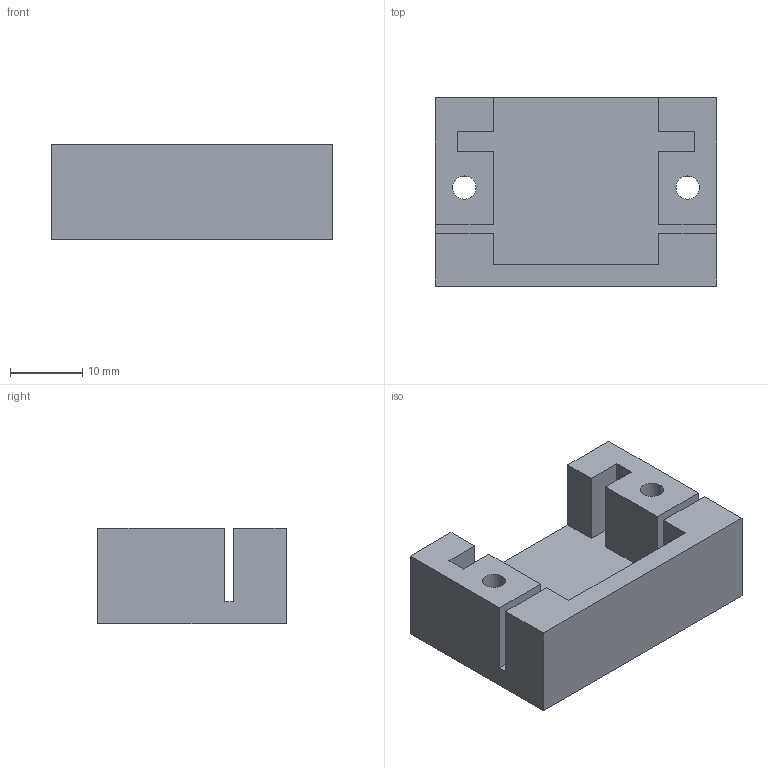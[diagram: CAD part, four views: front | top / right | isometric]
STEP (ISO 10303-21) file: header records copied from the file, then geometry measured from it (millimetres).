
FILE_DESCRIPTION(/* description */ (''),/* implementation_level */ '2;1');
FILE_NAME(/* name */ 'New Servo Cage - Long_v3.tmp.step',/* time_stamp */ '2026-11-01T13:10:22+02:00',/* author */ (''),/* organization */ (''),/* preprocessor_version */ 'ST-DEVELOPER v20.2',/* originating_system */ 'Autodesk Translation Framework v15.15.0.0',/* authorisation */ '');
FILE_SCHEMA (('AUTOMOTIVE_DESIGN { 1 0 10303 214 3 1 1 }'));
Length unit declared in the file: millimetre
Products named in the file (1): New Servo Cage - Long
Bounding box: 38.8 x 26 x 13.15 mm (x, y, z)
Volume: 7252.5 mm3; surface area: 4900 mm2
Topology: 1 solids, 1 shells, 28 faces, 78 edges, 52 vertices
Faces by surface type: plane 26, cylinder 2
Full cylindrical faces by diameter (mm): 3.2 x2
Entity records: 927 total; most frequent: CARTESIAN_POINT 159, ORIENTED_EDGE 156, DIRECTION 140, EDGE_CURVE 78, LINE 74, VECTOR 74, VERTEX_POINT 52, AXIS2_PLACEMENT_3D 33
